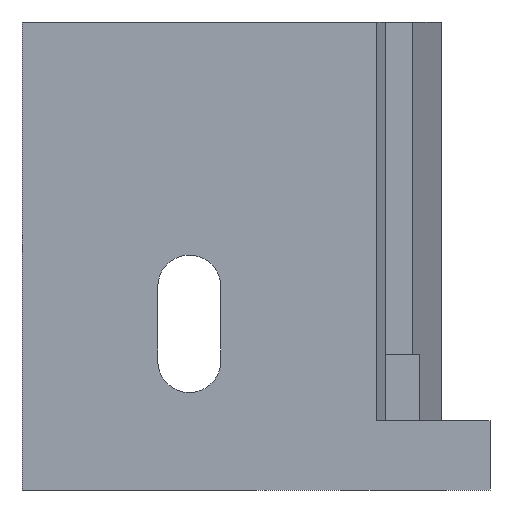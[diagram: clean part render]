
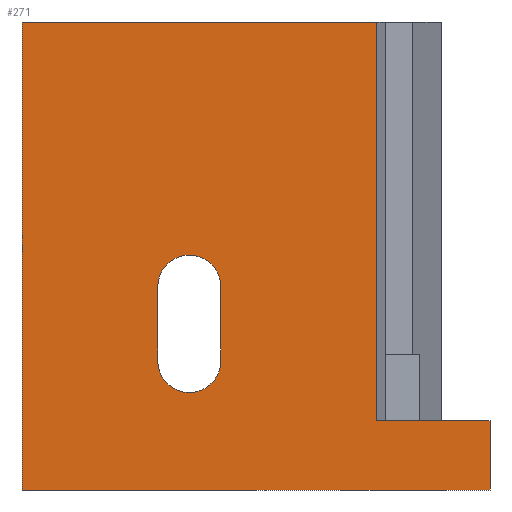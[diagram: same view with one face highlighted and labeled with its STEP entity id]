
A CAD part, left-side view. The second image highlights one B-rep face of the part: STEP entity #271.
In plain terms, the highlighted planar face has unit normal (-1, 0, 0).
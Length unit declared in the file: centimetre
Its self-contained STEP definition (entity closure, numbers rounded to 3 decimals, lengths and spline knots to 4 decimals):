
#23 = VECTOR ( 'NONE', #1266, 100. ) ;
#32 = CIRCLE ( 'NONE', #251, 67.3541 ) ;
#95 = DIRECTION ( 'NONE',  ( -1., 0., 0. ) ) ;
#98 = VERTEX_POINT ( 'NONE', #110 ) ;
#110 = CARTESIAN_POINT ( 'NONE',  ( 0., 0., 148.4365 ) ) ;
#121 = VERTEX_POINT ( 'NONE', #786 ) ;
#126 = CARTESIAN_POINT ( 'NONE',  ( 0., 642.537, 434.4292 ) ) ;
#140 = EDGE_LOOP ( 'NONE', ( #1448, #463, #1030, #1421, #500, #154 ) ) ;
#154 = ORIENTED_EDGE ( 'NONE', *, *, #937, .F. ) ;
#174 = ORIENTED_EDGE ( 'NONE', *, *, #200, .F. ) ;
#193 = EDGE_CURVE ( 'NONE', #1131, #1593, #286, .T. ) ;
#200 = EDGE_CURVE ( 'NONE', #428, #1262, #392, .T. ) ;
#251 = AXIS2_PLACEMENT_3D ( 'NONE', #707, #1224, #1099 ) ;
#255 = LINE ( 'NONE', #779, #1010 ) ;
#257 = EDGE_CURVE ( 'NONE', #1557, #98, #1447, .T. ) ;
#260 = VECTOR ( 'NONE', #945, 100. ) ;
#271 = ADVANCED_FACE ( 'NONE', ( #1582, #560 ), #814, .F. ) ;
#284 = LINE ( 'NONE', #691, #540 ) ;
#286 = CIRCLE ( 'NONE', #1238, 67.3541 ) ;
#306 = DIRECTION ( 'NONE',  ( 0., 0., 1. ) ) ;
#345 = CARTESIAN_POINT ( 'NONE',  ( 0., 1000., 1000. ) ) ;
#361 = CARTESIAN_POINT ( 'NONE',  ( 0., 1000., 1000. ) ) ;
#371 = ORIENTED_EDGE ( 'NONE', *, *, #808, .F. ) ;
#388 = DIRECTION ( 'NONE',  ( 0., -1., 0. ) ) ;
#392 = LINE ( 'NONE', #1422, #260 ) ;
#422 = ORIENTED_EDGE ( 'NONE', *, *, #1006, .F. ) ;
#428 = VERTEX_POINT ( 'NONE', #1101 ) ;
#432 = DIRECTION ( 'NONE',  ( 0., -1., 0. ) ) ;
#463 = ORIENTED_EDGE ( 'NONE', *, *, #670, .T. ) ;
#500 = ORIENTED_EDGE ( 'NONE', *, *, #997, .T. ) ;
#524 = VERTEX_POINT ( 'NONE', #775 ) ;
#535 = LINE ( 'NONE', #1276, #23 ) ;
#538 = CARTESIAN_POINT ( 'NONE',  ( 0., 242.1585, 1000. ) ) ;
#540 = VECTOR ( 'NONE', #306, 100. ) ;
#560 = FACE_OUTER_BOUND ( 'NONE', #140, .T. ) ;
#608 = EDGE_CURVE ( 'NONE', #819, #665, #1321, .T. ) ;
#631 = AXIS2_PLACEMENT_3D ( 'NONE', #1250, #95, #1363 ) ;
#644 = VERTEX_POINT ( 'NONE', #538 ) ;
#665 = VERTEX_POINT ( 'NONE', #841 ) ;
#670 = EDGE_CURVE ( 'NONE', #1557, #644, #284, .T. ) ;
#674 = CARTESIAN_POINT ( 'NONE',  ( 0., 1000., 1000. ) ) ;
#684 = DIRECTION ( 'NONE',  ( 0., 0., -1. ) ) ;
#686 = DIRECTION ( 'NONE',  ( 1., 0., 0. ) ) ;
#691 = CARTESIAN_POINT ( 'NONE',  ( 0., 242.1585, 148.4365 ) ) ;
#707 = CARTESIAN_POINT ( 'NONE',  ( 0., 642.537, 434.4292 ) ) ;
#710 = CARTESIAN_POINT ( 'NONE',  ( 0., 642.537, 501.7833 ) ) ;
#728 = VECTOR ( 'NONE', #684, 100. ) ;
#738 = DIRECTION ( 'NONE',  ( 0., -1., 0. ) ) ;
#775 = CARTESIAN_POINT ( 'NONE',  ( 0., 0., 0. ) ) ;
#779 = CARTESIAN_POINT ( 'NONE',  ( 0., 709.8911, 434.4292 ) ) ;
#786 = CARTESIAN_POINT ( 'NONE',  ( 0., 709.8911, 275.5182 ) ) ;
#791 = CIRCLE ( 'NONE', #631, 67.3541 ) ;
#807 = EDGE_CURVE ( 'NONE', #819, #644, #1122, .T. ) ;
#808 = EDGE_CURVE ( 'NONE', #1262, #1131, #32, .T. ) ;
#814 = PLANE ( 'NONE',  #1641 ) ;
#819 = VERTEX_POINT ( 'NONE', #361 ) ;
#841 = CARTESIAN_POINT ( 'NONE',  ( 0., 1000., 0. ) ) ;
#937 = EDGE_CURVE ( 'NONE', #98, #524, #535, .T. ) ;
#945 = DIRECTION ( 'NONE',  ( 0., 0., 1. ) ) ;
#997 = EDGE_CURVE ( 'NONE', #665, #524, #1551, .T. ) ;
#1006 = EDGE_CURVE ( 'NONE', #1593, #121, #255, .T. ) ;
#1010 = VECTOR ( 'NONE', #1055, 100. ) ;
#1030 = ORIENTED_EDGE ( 'NONE', *, *, #807, .F. ) ;
#1047 = DIRECTION ( 'NONE',  ( 0., 0., 1. ) ) ;
#1055 = DIRECTION ( 'NONE',  ( 0., 0., -1. ) ) ;
#1061 = DIRECTION ( 'NONE',  ( 0., 0., -1. ) ) ;
#1082 = ORIENTED_EDGE ( 'NONE', *, *, #1407, .F. ) ;
#1099 = DIRECTION ( 'NONE',  ( 0., 0., 1. ) ) ;
#1101 = CARTESIAN_POINT ( 'NONE',  ( 0., 575.183, 275.5182 ) ) ;
#1122 = LINE ( 'NONE', #345, #1492 ) ;
#1131 = VERTEX_POINT ( 'NONE', #710 ) ;
#1142 = DIRECTION ( 'NONE',  ( -1., 0., 0. ) ) ;
#1170 = CARTESIAN_POINT ( 'NONE',  ( 0., 1000., 0. ) ) ;
#1209 = CARTESIAN_POINT ( 'NONE',  ( 0., 1000., 1000. ) ) ;
#1224 = DIRECTION ( 'NONE',  ( -1., 0., 0. ) ) ;
#1238 = AXIS2_PLACEMENT_3D ( 'NONE', #126, #1142, #1047 ) ;
#1250 = CARTESIAN_POINT ( 'NONE',  ( 0., 642.537, 275.5182 ) ) ;
#1262 = VERTEX_POINT ( 'NONE', #1357 ) ;
#1266 = DIRECTION ( 'NONE',  ( 0., 0., -1. ) ) ;
#1276 = CARTESIAN_POINT ( 'NONE',  ( 0., 0., 1000. ) ) ;
#1311 = CARTESIAN_POINT ( 'NONE',  ( 0., 242.1585, 148.4365 ) ) ;
#1321 = LINE ( 'NONE', #1209, #728 ) ;
#1357 = CARTESIAN_POINT ( 'NONE',  ( 0., 575.183, 434.4292 ) ) ;
#1363 = DIRECTION ( 'NONE',  ( 0., 0., 1. ) ) ;
#1387 = CARTESIAN_POINT ( 'NONE',  ( 0., 242.1585, 148.4365 ) ) ;
#1407 = EDGE_CURVE ( 'NONE', #121, #428, #791, .T. ) ;
#1421 = ORIENTED_EDGE ( 'NONE', *, *, #608, .T. ) ;
#1422 = CARTESIAN_POINT ( 'NONE',  ( 0., 575.183, 275.5182 ) ) ;
#1427 = VECTOR ( 'NONE', #388, 100. ) ;
#1447 = LINE ( 'NONE', #1311, #1562 ) ;
#1448 = ORIENTED_EDGE ( 'NONE', *, *, #257, .F. ) ;
#1492 = VECTOR ( 'NONE', #738, 100. ) ;
#1529 = EDGE_LOOP ( 'NONE', ( #174, #1082, #422, #1651, #371 ) ) ;
#1531 = CARTESIAN_POINT ( 'NONE',  ( 0., 709.8911, 434.4292 ) ) ;
#1551 = LINE ( 'NONE', #1170, #1427 ) ;
#1557 = VERTEX_POINT ( 'NONE', #1387 ) ;
#1562 = VECTOR ( 'NONE', #432, 100. ) ;
#1582 = FACE_BOUND ( 'NONE', #1529, .T. ) ;
#1593 = VERTEX_POINT ( 'NONE', #1531 ) ;
#1641 = AXIS2_PLACEMENT_3D ( 'NONE', #674, #686, #1061 ) ;
#1651 = ORIENTED_EDGE ( 'NONE', *, *, #193, .F. ) ;
